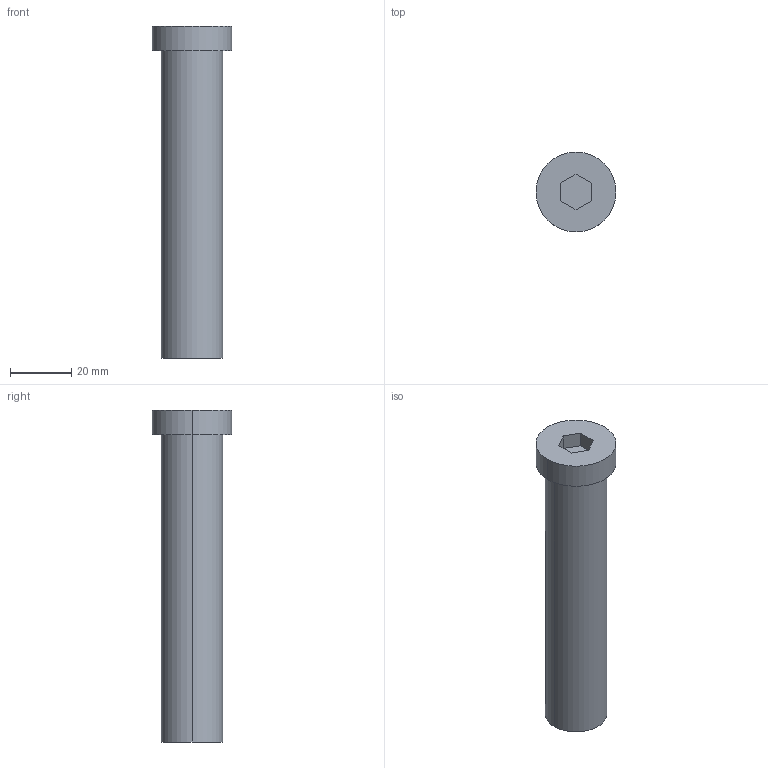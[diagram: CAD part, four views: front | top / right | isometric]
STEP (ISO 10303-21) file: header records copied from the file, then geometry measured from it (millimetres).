
FILE_DESCRIPTION (( 'STEP AP214' ), '1' );
FILE_NAME ('BruyRubio_TGH__20_x_100_-_M-14.STEP', '2019-12-22T23:39:32', ( '' ), ( '' ), 'SwSTEP 2.0', 'SolidWorks 2017', '' );
FILE_SCHEMA (( 'AUTOMOTIVE_DESIGN' ));
Length unit declared in the file: millimetre
Products named in the file (1): BruyRubio_TGH__20_x_100_-_M-14
Bounding box: 26 x 26 x 108 mm (x, y, z)
Volume: 31737.3 mm3; surface area: 11543.7 mm2
Topology: 2 solids, 2 shells, 27 faces, 58 edges, 37 vertices
Faces by surface type: plane 13, cylinder 12, cone 2
Entity records: 1070 total; most frequent: DIRECTION 136, CARTESIAN_POINT 121, ORIENTED_EDGE 112, EDGE_CURVE 56, AXIS2_PLACEMENT_3D 52, VERTEX_POINT 37, EDGE_LOOP 33, VECTOR 32
